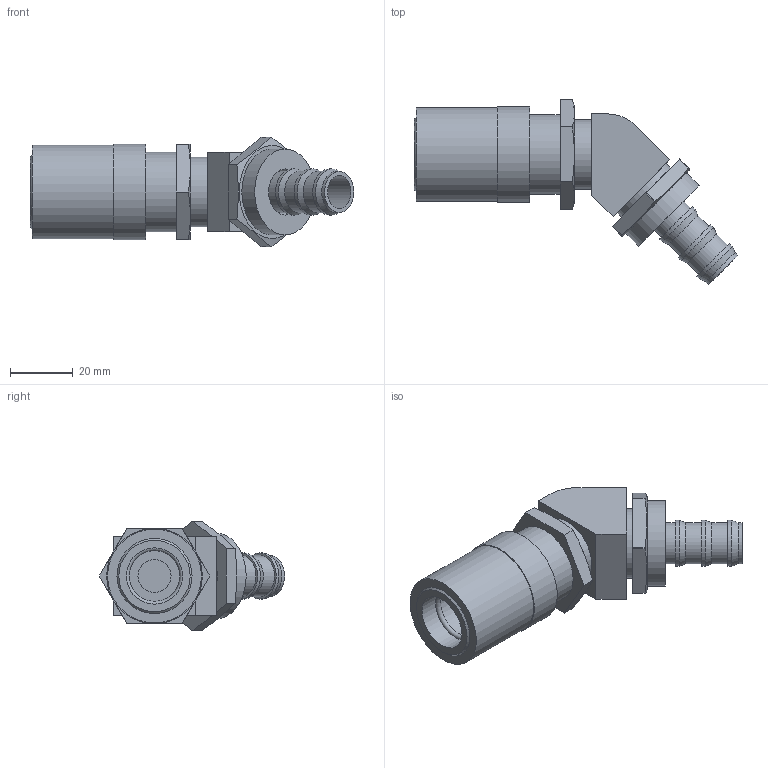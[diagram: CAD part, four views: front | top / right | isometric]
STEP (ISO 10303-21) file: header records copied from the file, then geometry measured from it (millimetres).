
FILE_DESCRIPTION(/* description */ ('STEP AP214'),/* implementation_level */ '2;1');
FILE_NAME(/* name */ 'JSL0524-V',/* time_stamp */ '2024-12-19T09:15:24+01:00',/* author */ ('License CC BY-ND 4.0'),/* organization */ ('CADENAS'),/* preprocessor_version */ 'ST-DEVELOPER v19.3',/* originating_system */ 'PARTsolutions',/* authorisation */ ' ');
FILE_SCHEMA (('AUTOMOTIVE_DESIGN {1 0 10303 214 3 1 1}'));
Length unit declared in the file: inch
Products named in the file (1): JSL0524-V
Bounding box: 103.37 x 59.15 x 35.04 mm (x, y, z)
Volume: 49315.1 mm3; surface area: 16897.5 mm2
Topology: 1 solids, 1 shells, 72 faces, 149 edges, 95 vertices
Faces by surface type: plane 35, cylinder 24, cone 12, torus 1
Full cylindrical faces by diameter (mm): 10.566 x2, 13.208 x4, 14.732 x3, 17.983 x2, 22.225 x2, 25.4 x1, 27.432 x1, 29.972 x1, 30.571 x1
Entity records: 1816 total; most frequent: CARTESIAN_POINT 347, DIRECTION 308, ORIENTED_EDGE 244, AXIS2_PLACEMENT_3D 131, EDGE_CURVE 122, EDGE_LOOP 112, FACE_BOUND 112, VERTEX_POINT 92
